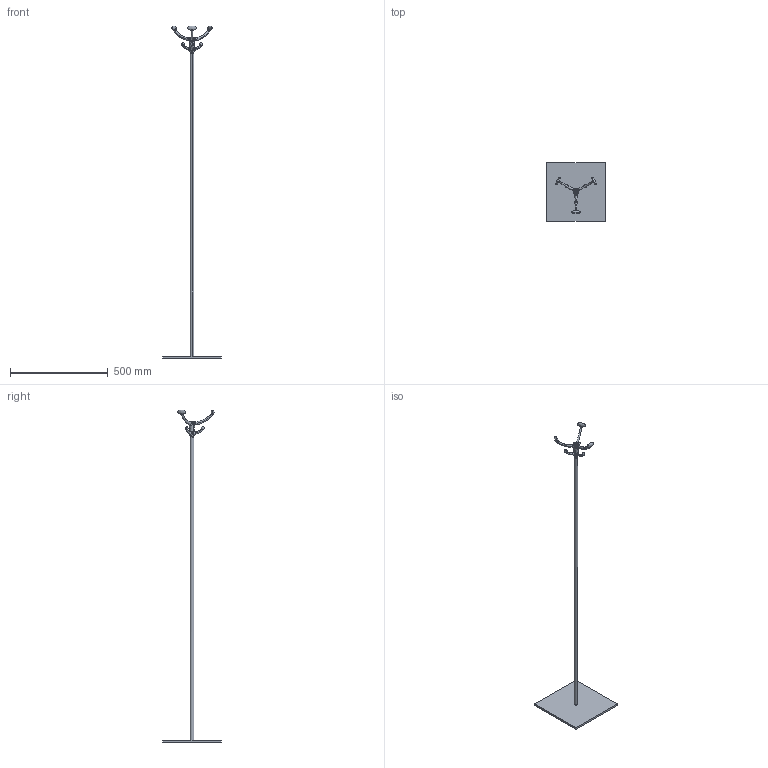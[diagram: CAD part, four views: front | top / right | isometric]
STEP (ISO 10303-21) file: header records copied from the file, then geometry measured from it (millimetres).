
FILE_DESCRIPTION(/* description */ (''),/* implementation_level */ '2;1');
FILE_NAME(/* name */ 'HUMPHREY BASIC',/* time_stamp */ '2017-05-23T16:07:09+02:00',/* author */ (''),/* organization */ (''),/* preprocessor_version */ 'ST-DEVELOPER v10',/* originating_system */ '',/* authorisation */ '');
FILE_SCHEMA (('CONFIG_CONTROL_DESIGN'));
Length unit declared in the file: millimetre
Products named in the file (4): 1; 2; 3; 4
Assembly tree (3 placements, depth 3):
  1
    2
      3
      4
Bounding box: 300 x 300 x 1697.19 mm (x, y, z)
Volume: 1114647.4 mm3; surface area: 400804.2 mm2
Topology: 3 solids, 8 shells, 182 faces, 620 edges, 445 vertices
Faces by surface type: bspline 139, plane 43
Entity records: 20003 total; most frequent: CARTESIAN_POINT 16254, ORIENTED_EDGE 1192, EDGE_CURVE 603, VERTEX_POINT 441, B_SPLINE_CURVE_WITH_KNOTS 367, EDGE_LOOP 197, ADVANCED_FACE 182, FACE_OUTER_BOUND 182
